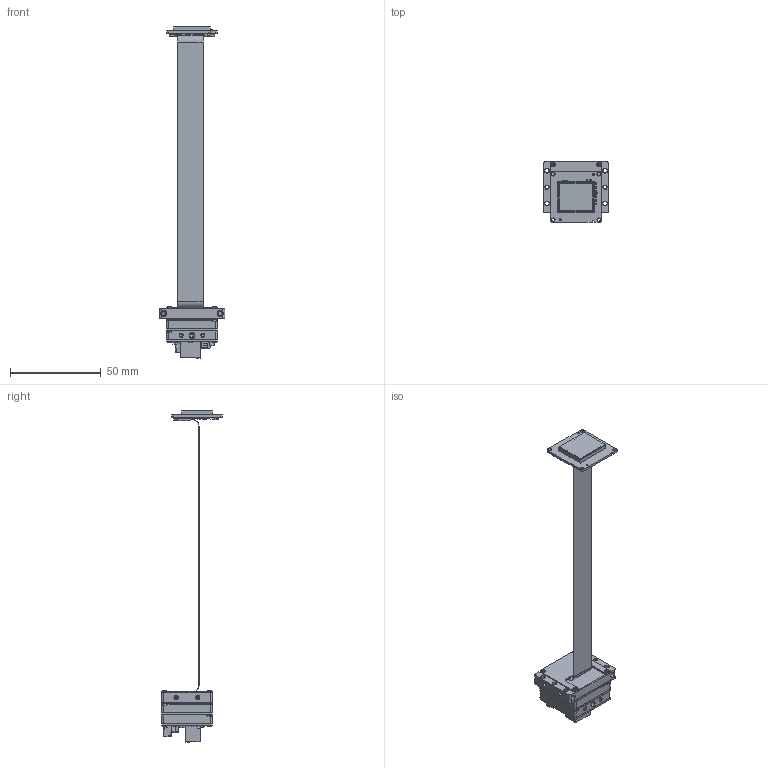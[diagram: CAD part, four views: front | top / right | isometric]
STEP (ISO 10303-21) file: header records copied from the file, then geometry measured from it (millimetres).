
FILE_DESCRIPTION (( 'STEP AP203' ), '1' );
FILE_NAME ('466-818-A_IX.STEP', '2025-01-07T20:07:57', ( '' ), ( '' ), 'SwSTEP 2.0', 'SolidWorks 2021', '' );
FILE_SCHEMA (( 'CONFIG_CONTROL_DESIGN' ));
Products named in the file (1): 466-818-A_IX
Bounding box: 36 x 33.55 x 182.85 mm (x, y, z)
Volume: 9854.6 mm3; surface area: 25058.9 mm2
Topology: 234 solids, 234 shells, 8576 faces, 21819 edges, 13290 vertices
Faces by surface type: plane 5279, cylinder 2228, bspline 677, cone 247, torus 77, sphere 68
Entity records: 259421 total; most frequent: CARTESIAN_POINT 57021, ORIENTED_EDGE 42422, DIRECTION 40884, EDGE_CURVE 21211, VECTOR 15968, LINE 15968, VERTEX_POINT 13284, AXIS2_PLACEMENT_3D 12458
